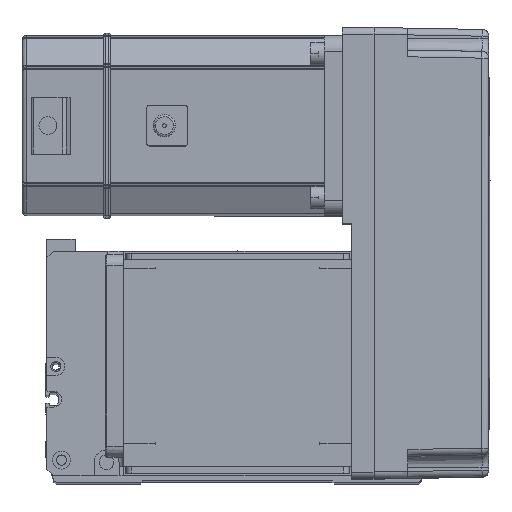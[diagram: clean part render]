
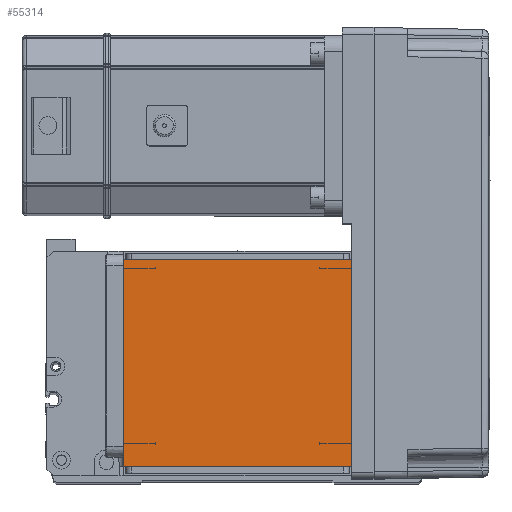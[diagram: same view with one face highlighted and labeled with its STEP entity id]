
A CAD part, top view. The second image highlights one B-rep face of the part: STEP entity #55314.
In plain terms, the highlighted planar face has unit normal (0, 0, 1).
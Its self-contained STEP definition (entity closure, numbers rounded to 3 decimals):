
#546 = ORIENTED_EDGE ( 'NONE', *, *, #23426, .F. ) ;
#1025 = CARTESIAN_POINT ( 'NONE',  ( -70.004, 111.5, 115. ) ) ;
#1354 = CARTESIAN_POINT ( 'NONE',  ( -50.5, 111.5, 115. ) ) ;
#2500 = CARTESIAN_POINT ( 'NONE',  ( 50.5, 122., 115. ) ) ;
#6447 = DIRECTION ( 'NONE',  ( 0., 1., 0. ) ) ;
#7367 = CARTESIAN_POINT ( 'NONE',  ( 50.5, 20., 115. ) ) ;
#8148 = CARTESIAN_POINT ( 'NONE',  ( 0., 0., 115. ) ) ;
#8311 = EDGE_LOOP ( 'NONE', ( #546, #53044, #15491, #9560 ) ) ;
#8349 = EDGE_CURVE ( 'NONE', #20795, #31918, #11749, .T. ) ;
#9560 = ORIENTED_EDGE ( 'NONE', *, *, #34881, .T. ) ;
#10214 = VERTEX_POINT ( 'NONE', #55265 ) ;
#11749 = LINE ( 'NONE', #14117, #52129 ) ;
#13741 = DIRECTION ( 'NONE',  ( 1., 0., 0. ) ) ;
#14117 = CARTESIAN_POINT ( 'NONE',  ( -70.004, 20., 115. ) ) ;
#14834 = VERTEX_POINT ( 'NONE', #1354 ) ;
#15491 = ORIENTED_EDGE ( 'NONE', *, *, #8349, .F. ) ;
#18482 = DIRECTION ( 'NONE',  ( -1., 0., 0. ) ) ;
#20230 = VECTOR ( 'NONE', #33613, 1000. ) ;
#20762 = DIRECTION ( 'NONE',  ( 1., 0., 0. ) ) ;
#20795 = VERTEX_POINT ( 'NONE', #7367 ) ;
#23426 = EDGE_CURVE ( 'NONE', #14834, #10214, #50557, .T. ) ;
#29279 = PLANE ( 'NONE',  #35411 ) ;
#30988 = VECTOR ( 'NONE', #6447, 1000. ) ;
#31918 = VERTEX_POINT ( 'NONE', #42215 ) ;
#33613 = DIRECTION ( 'NONE',  ( 0., -1., 0. ) ) ;
#34881 = EDGE_CURVE ( 'NONE', #20795, #10214, #39004, .T. ) ;
#35411 = AXIS2_PLACEMENT_3D ( 'NONE', #8148, #37884, #20762 ) ;
#37465 = FACE_OUTER_BOUND ( 'NONE', #8311, .T. ) ;
#37884 = DIRECTION ( 'NONE',  ( 0., 0., 1. ) ) ;
#39004 = LINE ( 'NONE', #2500, #30988 ) ;
#39103 = LINE ( 'NONE', #41695, #20230 ) ;
#41695 = CARTESIAN_POINT ( 'NONE',  ( -50.5, 122., 115. ) ) ;
#42215 = CARTESIAN_POINT ( 'NONE',  ( -50.5, 20., 115. ) ) ;
#43856 = VECTOR ( 'NONE', #13741, 1000. ) ;
#45539 = EDGE_CURVE ( 'NONE', #14834, #31918, #39103, .T. ) ;
#50557 = LINE ( 'NONE', #1025, #43856 ) ;
#52129 = VECTOR ( 'NONE', #18482, 1000. ) ;
#53044 = ORIENTED_EDGE ( 'NONE', *, *, #45539, .T. ) ;
#55265 = CARTESIAN_POINT ( 'NONE',  ( 50.5, 111.5, 115. ) ) ;
#55314 = ADVANCED_FACE ( 'NONE', ( #37465 ), #29279, .T. ) ;
